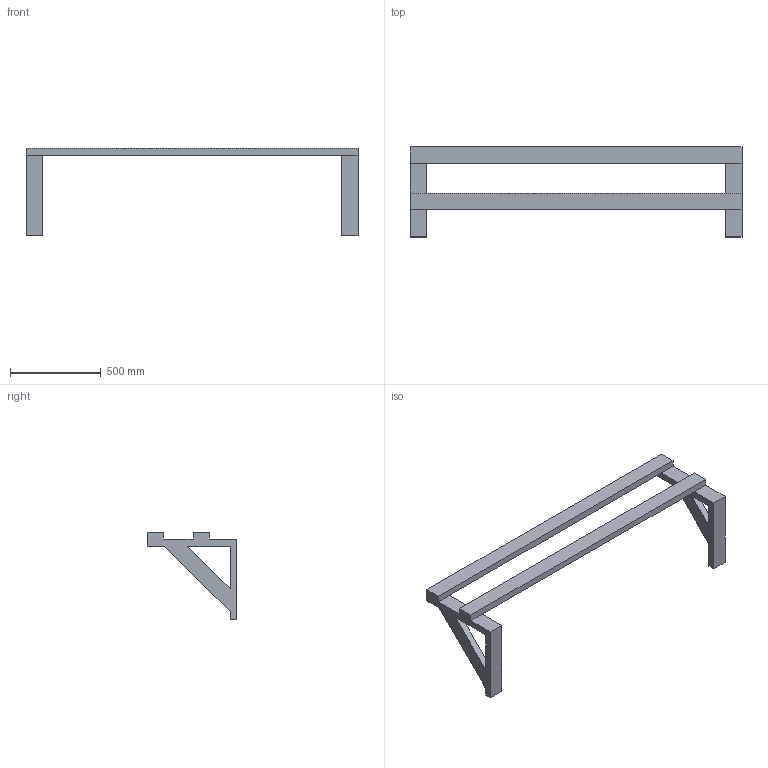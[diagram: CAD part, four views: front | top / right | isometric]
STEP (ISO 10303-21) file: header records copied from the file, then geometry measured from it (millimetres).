
FILE_DESCRIPTION(/* description */ (''),/* implementation_level */ '2;1');
FILE_NAME(/* name */ 'D:\fieldcad\fence6ft.stp',/* time_stamp */ '2023-08-01T19:08:15-05:00',/* author */ ('User'),/* organization */ (''),/* preprocessor_version */ 'ST-DEVELOPER v18.1',/* originating_system */ 'Autodesk Inventor 2022',/* authorisation */ '');
FILE_SCHEMA (('AUTOMOTIVE_DESIGN { 1 0 10303 214 3 1 1 }'));
Length unit declared in the file: inch
Products named in the file (1): fence6ft
Bounding box: 1828.8 x 495.3 x 482.6 mm (x, y, z)
Volume: 21335957.3 mm3; surface area: 1544707.6 mm2
Topology: 1 solids, 1 shells, 30 faces, 90 edges, 58 vertices
Faces by surface type: plane 30
Entity records: 1039 total; most frequent: ORIENTED_EDGE 180, CARTESIAN_POINT 179, DIRECTION 152, LINE 90, VECTOR 90, EDGE_CURVE 90, VERTEX_POINT 58, EDGE_LOOP 32
